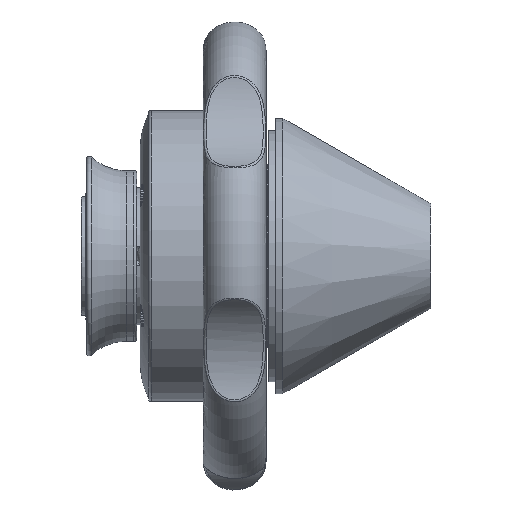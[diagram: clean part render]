
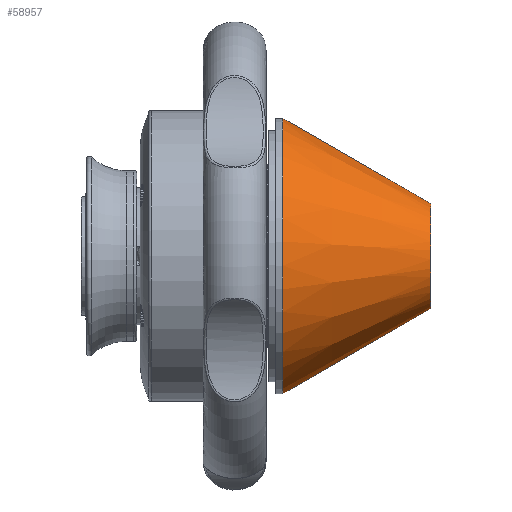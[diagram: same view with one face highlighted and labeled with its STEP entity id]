
A CAD part, top view. The second image highlights one B-rep face of the part: STEP entity #58957.
In plain terms, the highlighted conical face has half-angle 30 degrees and reference radius 52.5 mm.
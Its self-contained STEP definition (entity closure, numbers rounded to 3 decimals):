
#5639 = CONICAL_SURFACE ( 'NONE', #103753, 52.5, 0.524 ) ;
#7520 = FACE_BOUND ( 'NONE', #20193, .T. ) ;
#15344 = AXIS2_PLACEMENT_3D ( 'NONE', #64121, #25963, #48271 ) ;
#20193 = EDGE_LOOP ( 'NONE', ( #22277 ) ) ;
#22277 = ORIENTED_EDGE ( 'NONE', *, *, #31619, .T. ) ;
#25963 = DIRECTION ( 'NONE',  ( 1., 0., 0. ) ) ;
#26519 = CARTESIAN_POINT ( 'NONE',  ( 87.922, 0., 0. ) ) ;
#31619 = EDGE_CURVE ( 'NONE', #85617, #85617, #35336, .T. ) ;
#34996 = DIRECTION ( 'NONE',  ( -1., 0., 0. ) ) ;
#35336 = CIRCLE ( 'NONE', #77600, 20. ) ;
#35545 = DIRECTION ( 'NONE',  ( 0., -0.561, 0.828 ) ) ;
#38230 = EDGE_CURVE ( 'NONE', #60674, #60674, #52520, .T. ) ;
#39810 = CARTESIAN_POINT ( 'NONE',  ( 31.63, 0., 0. ) ) ;
#42934 = DIRECTION ( 'NONE',  ( -1., 0., 0. ) ) ;
#48271 = DIRECTION ( 'NONE',  ( 0., -0.561, 0.828 ) ) ;
#52520 = CIRCLE ( 'NONE', #15344, 52.5 ) ;
#58957 = ADVANCED_FACE ( 'NONE', ( #88052, #7520 ), #5639, .T. ) ;
#60674 = VERTEX_POINT ( 'NONE', #77650 ) ;
#62467 = EDGE_LOOP ( 'NONE', ( #103246 ) ) ;
#64121 = CARTESIAN_POINT ( 'NONE',  ( 31.63, 0., 0. ) ) ;
#67619 = CARTESIAN_POINT ( 'NONE',  ( 87.922, -11.211, 16.562 ) ) ;
#77600 = AXIS2_PLACEMENT_3D ( 'NONE', #26519, #34996, #91147 ) ;
#77650 = CARTESIAN_POINT ( 'NONE',  ( 31.63, -29.43, 43.476 ) ) ;
#85617 = VERTEX_POINT ( 'NONE', #67619 ) ;
#88052 = FACE_OUTER_BOUND ( 'NONE', #62467, .T. ) ;
#91147 = DIRECTION ( 'NONE',  ( 0., -0.561, 0.828 ) ) ;
#103246 = ORIENTED_EDGE ( 'NONE', *, *, #38230, .T. ) ;
#103753 = AXIS2_PLACEMENT_3D ( 'NONE', #39810, #42934, #35545 ) ;
